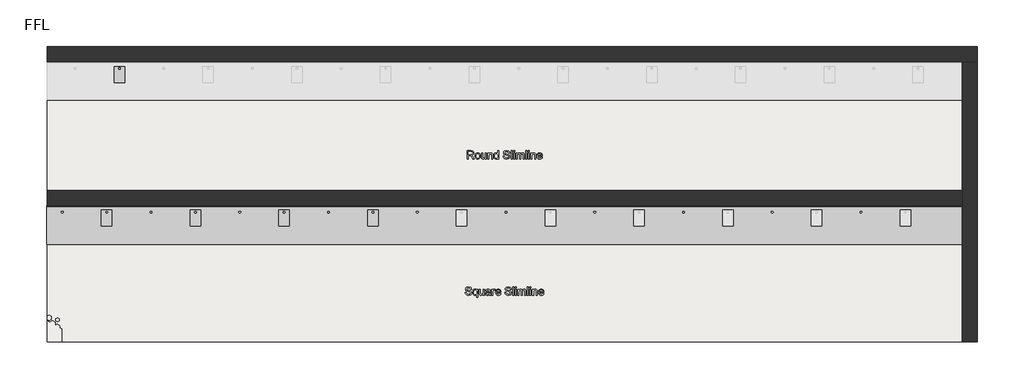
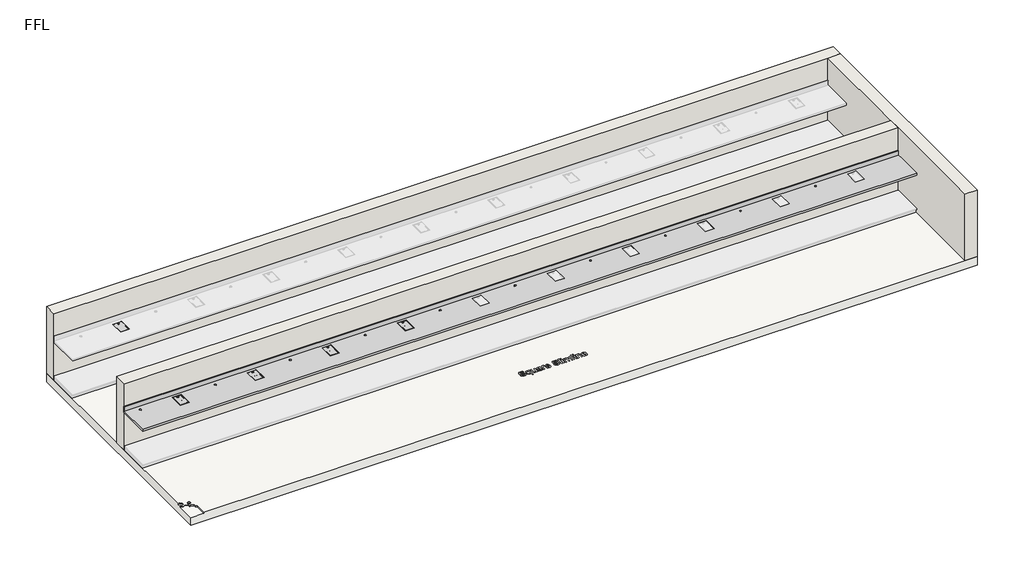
# One storey, part 1 of 3: 5 flow terminals, 3 walls, 1 furniture element, 1 slab.
"""IFC4 building model written with IfcOpenShell, lengths in millimetres."""

from ifc_helpers import new_model, si_unit, frame, origin, origin_with_axes, place, context, project, spatial, polyline, circle_curve, outline, extrude, faceted_brep, transform, mapped, element, save
from ifc_brep_helpers import plane_surface, revolved_surface, advanced_brep
from components import brushed_f93afeca

model = new_model("IFC4")

# Units and contexts
model_context = context("Model", 3, world=origin())
ifc_project = project(units=[si_unit("LENGTHUNIT", "METRE", prefix="MILLI")], contexts=[model_context])

# Site, building, storey
site = spatial("IfcSite", under=ifc_project)
building = spatial("IfcBuilding", under=site)
storey = spatial("IfcBuildingStorey", under=building, Name="FFL", Elevation=0.0)

# Flow terminals
placement = place(None, origin())
brushed_shape = brushed_f93afeca(model_context)
element("IfcFlowTerminal", 1, ObjectType="z_PlumFixt_Billi_Slimline Font : Brushed", at=placement, inside=storey, context=model_context, shape_type="MappedRepresentation", body=[
    mapped(brushed_shape, transform((-1260.7352929, 13626.6047841, 900.0), x_axis=(1.0, 0.0, 0.0), y_axis=(0.0, 1.0, 0.0), z_axis=(0.0, 0.0, 1.0))),
])
element("IfcFlowTerminal", 2, ObjectType="z_PlumFixt_Billi_Slimline Font : Brushed", at=placement, inside=storey, context=model_context, shape_type="MappedRepresentation", body=[
    mapped(brushed_shape, transform((-1490.7352929, 11033.3893304, 900.0), x_axis=(1.0, 0.0, 0.0), y_axis=(0.0, 1.0, 0.0), z_axis=(0.0, 0.0, 1.0))),
])
element("IfcFlowTerminal", 3, ObjectType="z_PlumFixt_Billi_Slimline Font : Chrome", at=placement, inside=storey, context=model_context, shape_type="MappedRepresentation", body=[
    mapped(brushed_shape, transform((109.2647071, 11033.3893304, 900.0), x_axis=(1.0, 0.0, 0.0), y_axis=(0.0, 1.0, 0.0), z_axis=(0.0, 0.0, 1.0))),
])
element("IfcFlowTerminal", 4, ObjectType="z_PlumFixt_Billi_Slimline Font : Matte Black", at=placement, inside=storey, context=model_context, shape_type="MappedRepresentation", body=[
    mapped(brushed_shape, transform((1709.2647071, 11033.3893304, 900.0), x_axis=(1.0, 0.0, 0.0), y_axis=(0.0, 1.0, 0.0), z_axis=(0.0, 0.0, 1.0))),
])
element("IfcFlowTerminal", 5, ObjectType="z_PlumFixt_Billi_Slimline Font : Matte White", at=placement, inside=storey, context=model_context, shape_type="MappedRepresentation", body=[
    mapped(brushed_shape, transform((3309.2647071, 11033.3893304, 900.0), x_axis=(1.0, 0.0, 0.0), y_axis=(0.0, 1.0, 0.0), z_axis=(0.0, 0.0, 1.0))),
])

# Furniture
element("IfcFurniture", 6, ObjectType="Counter Top : 700mm Depth", at=placement, inside=storey, context=model_context, shape_type="AdvancedBrep", body=[
    advanced_brep(
    [(-2573.0908899, 10548.2393304, 900.0), (13940.2647071, 10548.2393304, 900.0), (13940.2647071, 11229.1893304, 900.0), (-2573.0908899, 11229.1893304, 900.0), (-2289.7352929, 11144.2297911, 900.0), (-2289.7352929, 11112.2297911, 900.0), (-1394.2352929, 10874.1488696, 900.0), (-1585.2352929, 10874.1488696, 900.0), (-1585.2352929, 11165.1488696, 900.0), (-1394.2352929, 11165.1488696, 900.0), (-689.7352929, 11144.2297911, 900.0), (-689.7352929, 11112.2297911, 900.0), (205.7647071, 10874.1488696, 900.0), (14.7647071, 10874.1488696, 900.0), (14.7647071, 11165.1488696, 900.0), (205.7647071, 11165.1488696, 900.0), (910.2647071, 11144.2297911, 900.0), (910.2647071, 11112.2297911, 900.0), (1805.7647071, 10874.1488696, 900.0), (1614.7647071, 10874.1488696, 900.0), (1614.7647071, 11165.1488696, 900.0), (1805.7647071, 11165.1488696, 900.0), (2510.2647071, 11144.2297911, 900.0), (2510.2647071, 11112.2297911, 900.0), (3405.7647071, 10874.1488696, 900.0), (3214.7647071, 10874.1488696, 900.0), (3214.7647071, 11165.1488696, 900.0), (3405.7647071, 11165.1488696, 900.0), (4110.2647071, 11144.2297911, 900.0), (4110.2647071, 11112.2297911, 900.0), (5005.7647071, 10874.1488696, 900.0), (4814.7647071, 10874.1488696, 900.0), (4814.7647071, 11165.1488696, 900.0), (5005.7647071, 11165.1488696, 900.0), (5710.2647071, 11144.2297911, 900.0), (5710.2647071, 11112.2297911, 900.0), (6605.7647071, 10874.1488696, 900.0), (6414.7647071, 10874.1488696, 900.0), (6414.7647071, 11165.1488696, 900.0), (6605.7647071, 11165.1488696, 900.0), (7310.2647071, 11144.2297911, 900.0), (7310.2647071, 11112.2297911, 900.0), (8205.7647071, 10874.1488696, 900.0), (8014.7647071, 10874.1488696, 900.0), (8014.7647071, 11165.1488696, 900.0), (8205.7647071, 11165.1488696, 900.0), (8910.2647071, 11144.2297911, 900.0), (8910.2647071, 11112.2297911, 900.0), (9805.7647071, 10874.1488696, 900.0), (9614.7647071, 10874.1488696, 900.0), (9614.7647071, 11165.1488696, 900.0), (9805.7647071, 11165.1488696, 900.0), (10510.2647071, 11144.2297911, 900.0), (10510.2647071, 11112.2297911, 900.0), (11405.7647071, 10874.1488696, 900.0), (11214.7647071, 10874.1488696, 900.0), (11214.7647071, 11165.1488696, 900.0), (11405.7647071, 11165.1488696, 900.0), (12110.2647071, 11144.2297911, 900.0), (12110.2647071, 11112.2297911, 900.0), (13005.7647071, 10874.1488696, 900.0), (12814.7647071, 10874.1488696, 900.0), (12814.7647071, 11165.1488696, 900.0), (13005.7647071, 11165.1488696, 900.0), (13940.2647071, 11248.2393304, 860.0), (13940.2647071, 10548.2393304, 860.0), (-2573.0908899, 10548.2393304, 860.0), (-2573.0908899, 11248.2393304, 860.0), (-2289.7352929, 11112.2297911, 860.0), (-2289.7352929, 11144.2297911, 860.0), (-1576.7352929, 10882.6488696, 860.0), (-1402.7352929, 10882.6488696, 860.0), (-1402.7352929, 11156.6488696, 860.0), (-1576.7352929, 11156.6488696, 860.0), (-689.7352929, 11112.2297911, 860.0), (-689.7352929, 11144.2297911, 860.0), (23.2647071, 10882.6488696, 860.0), (197.2647071, 10882.6488696, 860.0), (197.2647071, 11156.6488696, 860.0), (23.2647071, 11156.6488696, 860.0), (910.2647071, 11112.2297911, 860.0), (910.2647071, 11144.2297911, 860.0), (1623.2647071, 10882.6488696, 860.0), (1797.2647071, 10882.6488696, 860.0), (1797.2647071, 11156.6488696, 860.0), (1623.2647071, 11156.6488696, 860.0), (2510.2647071, 11112.2297911, 860.0), (2510.2647071, 11144.2297911, 860.0), (3223.2647071, 10882.6488696, 860.0), (3397.2647071, 10882.6488696, 860.0), (3397.2647071, 11156.6488696, 860.0), (3223.2647071, 11156.6488696, 860.0), (4110.2647071, 11112.2297911, 860.0), (4110.2647071, 11144.2297911, 860.0), (4823.2647071, 10882.6488696, 860.0), (4997.2647071, 10882.6488696, 860.0), (4997.2647071, 11156.6488696, 860.0), (4823.2647071, 11156.6488696, 860.0), (5710.2647071, 11112.2297911, 860.0), (5710.2647071, 11144.2297911, 860.0), (6423.2647071, 10882.6488696, 860.0), (6597.2647071, 10882.6488696, 860.0), (6597.2647071, 11156.6488696, 860.0), (6423.2647071, 11156.6488696, 860.0), (7310.2647071, 11112.2297911, 860.0), (7310.2647071, 11144.2297911, 860.0), (8023.2647071, 10882.6488696, 860.0), (8197.2647071, 10882.6488696, 860.0), (8197.2647071, 11156.6488696, 860.0), (8023.2647071, 11156.6488696, 860.0), (8910.2647071, 11112.2297911, 860.0), (8910.2647071, 11144.2297911, 860.0), (9623.2647071, 10882.6488696, 860.0), (9797.2647071, 10882.6488696, 860.0), (9797.2647071, 11156.6488696, 860.0), (9623.2647071, 11156.6488696, 860.0), (10510.2647071, 11112.2297911, 860.0), (10510.2647071, 11144.2297911, 860.0), (11223.2647071, 10882.6488696, 860.0), (11397.2647071, 10882.6488696, 860.0), (11397.2647071, 11156.6488696, 860.0), (11223.2647071, 11156.6488696, 860.0), (12110.2647071, 11112.2297911, 860.0), (12110.2647071, 11144.2297911, 860.0), (12823.2647071, 10882.6488696, 860.0), (12997.2647071, 10882.6488696, 860.0), (12997.2647071, 11156.6488696, 860.0), (12823.2647071, 11156.6488696, 860.0), (-2573.0908899, 11248.2393304, 1001.6), (13940.2647071, 11248.2393304, 1001.6), (-2573.0908899, 11229.1893304, 1001.6), (13940.2647071, 11229.1893304, 1001.6), (-1576.7352929, 10882.6488696, 894.5), (-1402.7352929, 10882.6488696, 894.5), (-1394.2352929, 10874.1488696, 894.5), (-1585.2352929, 10874.1488696, 894.5), (-1402.7352929, 11156.6488696, 894.5), (-1394.2352929, 11165.1488696, 894.5), (-1576.7352929, 11156.6488696, 894.5), (-1585.2352929, 11165.1488696, 894.5), (23.2647071, 10882.6488696, 894.5), (197.2647071, 10882.6488696, 894.5), (205.7647071, 10874.1488696, 894.5), (14.7647071, 10874.1488696, 894.5), (197.2647071, 11156.6488696, 894.5), (205.7647071, 11165.1488696, 894.5), (23.2647071, 11156.6488696, 894.5), (14.7647071, 11165.1488696, 894.5), (1623.2647071, 10882.6488696, 894.5), (1797.2647071, 10882.6488696, 894.5), (1805.7647071, 10874.1488696, 894.5), (1614.7647071, 10874.1488696, 894.5), (1797.2647071, 11156.6488696, 894.5), (1805.7647071, 11165.1488696, 894.5), (1623.2647071, 11156.6488696, 894.5), (1614.7647071, 11165.1488696, 894.5), (3223.2647071, 10882.6488696, 894.5), (3397.2647071, 10882.6488696, 894.5), (3405.7647071, 10874.1488696, 894.5), (3214.7647071, 10874.1488696, 894.5), (3397.2647071, 11156.6488696, 894.5), (3405.7647071, 11165.1488696, 894.5), (3223.2647071, 11156.6488696, 894.5), (3214.7647071, 11165.1488696, 894.5), (4823.2647071, 10882.6488696, 894.5), (4997.2647071, 10882.6488696, 894.5), (5005.7647071, 10874.1488696, 894.5), (4814.7647071, 10874.1488696, 894.5), (4997.2647071, 11156.6488696, 894.5), (5005.7647071, 11165.1488696, 894.5), (4823.2647071, 11156.6488696, 894.5), (4814.7647071, 11165.1488696, 894.5), (6423.2647071, 10882.6488696, 894.5), (6597.2647071, 10882.6488696, 894.5), (6605.7647071, 10874.1488696, 894.5), (6414.7647071, 10874.1488696, 894.5), (6597.2647071, 11156.6488696, 894.5), (6605.7647071, 11165.1488696, 894.5), (6423.2647071, 11156.6488696, 894.5), (6414.7647071, 11165.1488696, 894.5), (8023.2647071, 10882.6488696, 894.5), (8197.2647071, 10882.6488696, 894.5), (8205.7647071, 10874.1488696, 894.5), (8014.7647071, 10874.1488696, 894.5), (8197.2647071, 11156.6488696, 894.5), (8205.7647071, 11165.1488696, 894.5), (8023.2647071, 11156.6488696, 894.5), (8014.7647071, 11165.1488696, 894.5), (9623.2647071, 10882.6488696, 894.5), (9797.2647071, 10882.6488696, 894.5), (9805.7647071, 10874.1488696, 894.5), (9614.7647071, 10874.1488696, 894.5), (9797.2647071, 11156.6488696, 894.5), (9805.7647071, 11165.1488696, 894.5), (9623.2647071, 11156.6488696, 894.5), (9614.7647071, 11165.1488696, 894.5), (11223.2647071, 10882.6488696, 894.5), (11397.2647071, 10882.6488696, 894.5), (11405.7647071, 10874.1488696, 894.5), (11214.7647071, 10874.1488696, 894.5), (11397.2647071, 11156.6488696, 894.5), (11405.7647071, 11165.1488696, 894.5), (11223.2647071, 11156.6488696, 894.5), (11214.7647071, 11165.1488696, 894.5), (12823.2647071, 10882.6488696, 894.5), (12997.2647071, 10882.6488696, 894.5), (13005.7647071, 10874.1488696, 894.5), (12814.7647071, 10874.1488696, 894.5), (12997.2647071, 11156.6488696, 894.5), (13005.7647071, 11165.1488696, 894.5), (12823.2647071, 11156.6488696, 894.5), (12814.7647071, 11165.1488696, 894.5)],
    [
        (0, 1),
        (1, 2),
        (2, 3),
        (3, 0),
        (4, 5, circle_curve(frame((-2289.7352929, 11128.2297911, 900.0), z_axis=(0.0, 0.0, -1.0), x_axis=(0.0, 1.0, 0.0)), 16.0)),
        (5, 4, circle_curve(frame((-2289.7352929, 11128.2297911, 900.0), z_axis=(0.0, 0.0, -1.0), x_axis=(0.0, 1.0, 0.0)), 16.0)),
        (6, 7),
        (7, 8),
        (8, 9),
        (9, 6),
        (10, 11, circle_curve(frame((-689.7352929, 11128.2297911, 900.0), z_axis=(0.0, 0.0, -1.0), x_axis=(0.0, 1.0, 0.0)), 16.0)),
        (11, 10, circle_curve(frame((-689.7352929, 11128.2297911, 900.0), z_axis=(0.0, 0.0, -1.0), x_axis=(0.0, 1.0, 0.0)), 16.0)),
        (12, 13),
        (13, 14),
        (14, 15),
        (15, 12),
        (16, 17, circle_curve(frame((910.2647071, 11128.2297911, 900.0), z_axis=(0.0, 0.0, -1.0), x_axis=(0.0, 1.0, 0.0)), 16.0)),
        (17, 16, circle_curve(frame((910.2647071, 11128.2297911, 900.0), z_axis=(0.0, 0.0, -1.0), x_axis=(0.0, 1.0, 0.0)), 16.0)),
        (18, 19),
        (19, 20),
        (20, 21),
        (21, 18),
        (22, 23, circle_curve(frame((2510.2647071, 11128.2297911, 900.0), z_axis=(0.0, 0.0, -1.0), x_axis=(0.0, 1.0, 0.0)), 16.0)),
        (23, 22, circle_curve(frame((2510.2647071, 11128.2297911, 900.0), z_axis=(0.0, 0.0, -1.0), x_axis=(0.0, 1.0, 0.0)), 16.0)),
        (24, 25),
        (25, 26),
        (26, 27),
        (27, 24),
        (28, 29, circle_curve(frame((4110.2647071, 11128.2297911, 900.0), z_axis=(0.0, 0.0, -1.0), x_axis=(0.0, 1.0, 0.0)), 16.0)),
        (29, 28, circle_curve(frame((4110.2647071, 11128.2297911, 900.0), z_axis=(0.0, 0.0, -1.0), x_axis=(0.0, 1.0, 0.0)), 16.0)),
        (30, 31),
        (31, 32),
        (32, 33),
        (33, 30),
        (34, 35, circle_curve(frame((5710.2647071, 11128.2297911, 900.0), z_axis=(0.0, 0.0, -1.0), x_axis=(0.0, 1.0, 0.0)), 16.0)),
        (35, 34, circle_curve(frame((5710.2647071, 11128.2297911, 900.0), z_axis=(0.0, 0.0, -1.0), x_axis=(0.0, 1.0, 0.0)), 16.0)),
        (36, 37),
        (37, 38),
        (38, 39),
        (39, 36),
        (40, 41, circle_curve(frame((7310.2647071, 11128.2297911, 900.0), z_axis=(0.0, 0.0, -1.0), x_axis=(0.0, 1.0, 0.0)), 16.0)),
        (41, 40, circle_curve(frame((7310.2647071, 11128.2297911, 900.0), z_axis=(0.0, 0.0, -1.0), x_axis=(0.0, 1.0, 0.0)), 16.0)),
        (42, 43),
        (43, 44),
        (44, 45),
        (45, 42),
        (46, 47, circle_curve(frame((8910.2647071, 11128.2297911, 900.0), z_axis=(0.0, 0.0, -1.0), x_axis=(0.0, 1.0, 0.0)), 16.0)),
        (47, 46, circle_curve(frame((8910.2647071, 11128.2297911, 900.0), z_axis=(0.0, 0.0, -1.0), x_axis=(0.0, 1.0, 0.0)), 16.0)),
        (48, 49),
        (49, 50),
        (50, 51),
        (51, 48),
        (52, 53, circle_curve(frame((10510.2647071, 11128.2297911, 900.0), z_axis=(0.0, 0.0, -1.0), x_axis=(0.0, 1.0, 0.0)), 16.0)),
        (53, 52, circle_curve(frame((10510.2647071, 11128.2297911, 900.0), z_axis=(0.0, 0.0, -1.0), x_axis=(0.0, 1.0, 0.0)), 16.0)),
        (54, 55),
        (55, 56),
        (56, 57),
        (57, 54),
        (58, 59, circle_curve(frame((12110.2647071, 11128.2297911, 900.0), z_axis=(0.0, 0.0, -1.0), x_axis=(0.0, 1.0, 0.0)), 16.0)),
        (59, 58, circle_curve(frame((12110.2647071, 11128.2297911, 900.0), z_axis=(0.0, 0.0, -1.0), x_axis=(0.0, 1.0, 0.0)), 16.0)),
        (60, 61),
        (61, 62),
        (62, 63),
        (63, 60),
        (64, 65),
        (65, 66),
        (66, 67),
        (67, 64),
        (68, 69, circle_curve(frame((-2289.7352929, 11128.2297911, 860.0), z_axis=(0.0, 0.0, 1.0), x_axis=(0.0, 1.0, 0.0)), 16.0)),
        (69, 68, circle_curve(frame((-2289.7352929, 11128.2297911, 860.0), z_axis=(0.0, 0.0, 1.0), x_axis=(0.0, 1.0, 0.0)), 16.0)),
        (70, 71),
        (71, 72),
        (72, 73),
        (73, 70),
        (74, 75, circle_curve(frame((-689.7352929, 11128.2297911, 860.0), z_axis=(0.0, 0.0, 1.0), x_axis=(0.0, 1.0, 0.0)), 16.0)),
        (75, 74, circle_curve(frame((-689.7352929, 11128.2297911, 860.0), z_axis=(0.0, 0.0, 1.0), x_axis=(0.0, 1.0, 0.0)), 16.0)),
        (76, 77),
        (77, 78),
        (78, 79),
        (79, 76),
        (80, 81, circle_curve(frame((910.2647071, 11128.2297911, 860.0), z_axis=(0.0, 0.0, 1.0), x_axis=(0.0, 1.0, 0.0)), 16.0)),
        (81, 80, circle_curve(frame((910.2647071, 11128.2297911, 860.0), z_axis=(0.0, 0.0, 1.0), x_axis=(0.0, 1.0, 0.0)), 16.0)),
        (82, 83),
        (83, 84),
        (84, 85),
        (85, 82),
        (86, 87, circle_curve(frame((2510.2647071, 11128.2297911, 860.0), z_axis=(0.0, 0.0, 1.0), x_axis=(0.0, 1.0, 0.0)), 16.0)),
        (87, 86, circle_curve(frame((2510.2647071, 11128.2297911, 860.0), z_axis=(0.0, 0.0, 1.0), x_axis=(0.0, 1.0, 0.0)), 16.0)),
        (88, 89),
        (89, 90),
        (90, 91),
        (91, 88),
        (92, 93, circle_curve(frame((4110.2647071, 11128.2297911, 860.0), z_axis=(0.0, 0.0, 1.0), x_axis=(0.0, 1.0, 0.0)), 16.0)),
        (93, 92, circle_curve(frame((4110.2647071, 11128.2297911, 860.0), z_axis=(0.0, 0.0, 1.0), x_axis=(0.0, 1.0, 0.0)), 16.0)),
        (94, 95),
        (95, 96),
        (96, 97),
        (97, 94),
        (98, 99, circle_curve(frame((5710.2647071, 11128.2297911, 860.0), z_axis=(0.0, 0.0, 1.0), x_axis=(0.0, 1.0, 0.0)), 16.0)),
        (99, 98, circle_curve(frame((5710.2647071, 11128.2297911, 860.0), z_axis=(0.0, 0.0, 1.0), x_axis=(0.0, 1.0, 0.0)), 16.0)),
        (100, 101),
        (101, 102),
        (102, 103),
        (103, 100),
        (104, 105, circle_curve(frame((7310.2647071, 11128.2297911, 860.0), z_axis=(0.0, 0.0, 1.0), x_axis=(0.0, 1.0, 0.0)), 16.0)),
        (105, 104, circle_curve(frame((7310.2647071, 11128.2297911, 860.0), z_axis=(0.0, 0.0, 1.0), x_axis=(0.0, 1.0, 0.0)), 16.0)),
        (106, 107),
        (107, 108),
        (108, 109),
        (109, 106),
        (110, 111, circle_curve(frame((8910.2647071, 11128.2297911, 860.0), z_axis=(0.0, 0.0, 1.0), x_axis=(0.0, 1.0, 0.0)), 16.0)),
        (111, 110, circle_curve(frame((8910.2647071, 11128.2297911, 860.0), z_axis=(0.0, 0.0, 1.0), x_axis=(0.0, 1.0, 0.0)), 16.0)),
        (112, 113),
        (113, 114),
        (114, 115),
        (115, 112),
        (116, 117, circle_curve(frame((10510.2647071, 11128.2297911, 860.0), z_axis=(0.0, 0.0, 1.0), x_axis=(0.0, 1.0, 0.0)), 16.0)),
        (117, 116, circle_curve(frame((10510.2647071, 11128.2297911, 860.0), z_axis=(0.0, 0.0, 1.0), x_axis=(0.0, 1.0, 0.0)), 16.0)),
        (118, 119),
        (119, 120),
        (120, 121),
        (121, 118),
        (122, 123, circle_curve(frame((12110.2647071, 11128.2297911, 860.0), z_axis=(0.0, 0.0, 1.0), x_axis=(0.0, 1.0, 0.0)), 16.0)),
        (123, 122, circle_curve(frame((12110.2647071, 11128.2297911, 860.0), z_axis=(0.0, 0.0, 1.0), x_axis=(0.0, 1.0, 0.0)), 16.0)),
        (124, 125),
        (125, 126),
        (126, 127),
        (127, 124),
        (67, 128),
        (128, 129),
        (129, 64),
        (3, 130),
        (130, 128),
        (66, 0),
        (65, 1),
        (129, 131),
        (131, 2),
        (130, 131),
        (68, 5),
        (4, 69),
        (132, 133),
        (133, 71),
        (70, 132),
        (6, 134),
        (134, 135),
        (135, 7),
        (133, 136),
        (136, 72),
        (9, 137),
        (137, 134),
        (136, 138),
        (138, 73),
        (8, 139),
        (139, 137),
        (138, 132),
        (139, 135),
        (74, 11),
        (10, 75),
        (140, 141),
        (141, 77),
        (76, 140),
        (12, 142),
        (142, 143),
        (143, 13),
        (141, 144),
        (144, 78),
        (15, 145),
        (145, 142),
        (144, 146),
        (146, 79),
        (14, 147),
        (147, 145),
        (146, 140),
        (147, 143),
        (80, 17),
        (16, 81),
        (148, 149),
        (149, 83),
        (82, 148),
        (18, 150),
        (150, 151),
        (151, 19),
        (149, 152),
        (152, 84),
        (21, 153),
        (153, 150),
        (152, 154),
        (154, 85),
        (20, 155),
        (155, 153),
        (154, 148),
        (155, 151),
        (86, 23),
        (22, 87),
        (156, 157),
        (157, 89),
        (88, 156),
        (24, 158),
        (158, 159),
        (159, 25),
        (157, 160),
        (160, 90),
        (27, 161),
        (161, 158),
        (160, 162),
        (162, 91),
        (26, 163),
        (163, 161),
        (162, 156),
        (163, 159),
        (92, 29),
        (28, 93),
        (164, 165),
        (165, 95),
        (94, 164),
        (30, 166),
        (166, 167),
        (167, 31),
        (165, 168),
        (168, 96),
        (33, 169),
        (169, 166),
        (168, 170),
        (170, 97),
        (32, 171),
        (171, 169),
        (170, 164),
        (171, 167),
        (98, 35),
        (34, 99),
        (172, 173),
        (173, 101),
        (100, 172),
        (36, 174),
        (174, 175),
        (175, 37),
        (173, 176),
        (176, 102),
        (39, 177),
        (177, 174),
        (176, 178),
        (178, 103),
        (38, 179),
        (179, 177),
        (178, 172),
        (179, 175),
        (104, 41),
        (40, 105),
        (180, 181),
        (181, 107),
        (106, 180),
        (42, 182),
        (182, 183),
        (183, 43),
        (181, 184),
        (184, 108),
        (45, 185),
        (185, 182),
        (184, 186),
        (186, 109),
        (44, 187),
        (187, 185),
        (186, 180),
        (187, 183),
        (110, 47),
        (46, 111),
        (188, 189),
        (189, 113),
        (112, 188),
        (48, 190),
        (190, 191),
        (191, 49),
        (189, 192),
        (192, 114),
        (51, 193),
        (193, 190),
        (192, 194),
        (194, 115),
        (50, 195),
        (195, 193),
        (194, 188),
        (195, 191),
        (116, 53),
        (52, 117),
        (196, 197),
        (197, 119),
        (118, 196),
        (54, 198),
        (198, 199),
        (199, 55),
        (197, 200),
        (200, 120),
        (57, 201),
        (201, 198),
        (200, 202),
        (202, 121),
        (56, 203),
        (203, 201),
        (202, 196),
        (203, 199),
        (122, 59),
        (58, 123),
        (204, 205),
        (205, 125),
        (124, 204),
        (60, 206),
        (206, 207),
        (207, 61),
        (205, 208),
        (208, 126),
        (63, 209),
        (209, 206),
        (208, 210),
        (210, 127),
        (62, 211),
        (211, 209),
        (210, 204),
        (211, 207),
    ],
    [
        plane_surface(frame((-2573.0908899, 11248.2393304, 900.0), z_axis=(0.0, 0.0, 1.0), x_axis=(-1.0, 0.0, 0.0))),
        plane_surface(frame((-2573.0908899, 11248.2393304, 860.0), z_axis=(0.0, 0.0, -1.0), x_axis=(1.0, 0.0, 0.0))),
        plane_surface(frame((13940.2647071, 11248.2393304, 900.0), z_axis=(0.0, 1.0, 0.0), x_axis=(0.0, 0.0, -1.0))),
        plane_surface(frame((-2573.0908899, 11248.2393304, 900.0), z_axis=(-1.0, 0.0, 0.0), x_axis=(0.0, 0.0, -1.0))),
        plane_surface(frame((-2573.0908899, 10548.2393304, 900.0), z_axis=(0.0, -1.0, 0.0), x_axis=(0.0, 0.0, -1.0))),
        plane_surface(frame((13940.2647071, 10548.2393304, 900.0), z_axis=(1.0, 0.0, 0.0), x_axis=(0.0, 0.0, -1.0))),
        plane_surface(frame((-2573.0908899, 11248.2393304, 1001.6), z_axis=(0.0, 0.0, 1.0), x_axis=(0.0, -1.0, 0.0))),
        plane_surface(frame((-2573.0908899, 11229.1893304, 1001.6), z_axis=(0.0, -1.0, 0.0), x_axis=(0.0, 0.0, -1.0))),
        revolved_surface(polyline([(-2289.7352929, 11144.2297911, 900.0), (-2289.7352929, 11144.2297911, 860.0)]), (-2289.7352929, 11128.2297911, 800.0), (0.0, 0.0, 1.0)),
        plane_surface(frame((-1576.7352929, 10882.6488696, 800.0), z_axis=(0.0, 1.0, 0.0), x_axis=(1.0, 0.0, 0.0))),
        plane_surface(frame((-1585.2352929, 10874.1488696, 894.5), z_axis=(0.0, 1.0, 0.0), x_axis=(1.0, 0.0, 0.0))),
        plane_surface(frame((-1402.7352929, 10882.6488696, 800.0), z_axis=(-1.0, 0.0, 0.0), x_axis=(0.0, 1.0, 0.0))),
        plane_surface(frame((-1394.2352929, 10874.1488696, 894.5), z_axis=(-1.0, 0.0, 0.0), x_axis=(0.0, 1.0, 0.0))),
        plane_surface(frame((-1402.7352929, 11156.6488696, 800.0), z_axis=(0.0, -1.0, 0.0), x_axis=(-1.0, 0.0, 0.0))),
        plane_surface(frame((-1394.2352929, 11165.1488696, 894.5), z_axis=(0.0, -1.0, 0.0), x_axis=(-1.0, 0.0, 0.0))),
        plane_surface(frame((-1576.7352929, 11156.6488696, 800.0), z_axis=(1.0, 0.0, 0.0), x_axis=(0.0, -1.0, 0.0))),
        plane_surface(frame((-1576.7352929, 11156.6488696, 894.5), z_axis=(0.0, 0.0, 1.0), x_axis=(0.0, -1.0, 0.0))),
        plane_surface(frame((-1585.2352929, 11165.1488696, 894.5), z_axis=(1.0, 0.0, 0.0), x_axis=(0.0, -1.0, 0.0))),
        revolved_surface(polyline([(-689.7352929, 11144.2297911, 900.0), (-689.7352929, 11144.2297911, 860.0)]), (-689.7352929, 11128.2297911, 800.0), (0.0, 0.0, 1.0)),
        plane_surface(frame((23.2647071, 10882.6488696, 800.0), z_axis=(0.0, 1.0, 0.0), x_axis=(1.0, 0.0, 0.0))),
        plane_surface(frame((14.7647071, 10874.1488696, 894.5), z_axis=(0.0, 1.0, 0.0), x_axis=(1.0, 0.0, 0.0))),
        plane_surface(frame((197.2647071, 10882.6488696, 800.0), z_axis=(-1.0, 0.0, 0.0), x_axis=(0.0, 1.0, 0.0))),
        plane_surface(frame((205.7647071, 10874.1488696, 894.5), z_axis=(-1.0, 0.0, 0.0), x_axis=(0.0, 1.0, 0.0))),
        plane_surface(frame((197.2647071, 11156.6488696, 800.0), z_axis=(0.0, -1.0, 0.0), x_axis=(-1.0, 0.0, 0.0))),
        plane_surface(frame((205.7647071, 11165.1488696, 894.5), z_axis=(0.0, -1.0, 0.0), x_axis=(-1.0, 0.0, 0.0))),
        plane_surface(frame((23.2647071, 11156.6488696, 800.0), z_axis=(1.0, 0.0, 0.0), x_axis=(0.0, -1.0, 0.0))),
        plane_surface(frame((23.2647071, 11156.6488696, 894.5), z_axis=(0.0, 0.0, 1.0), x_axis=(0.0, -1.0, 0.0))),
        plane_surface(frame((14.7647071, 11165.1488696, 894.5), z_axis=(1.0, 0.0, 0.0), x_axis=(0.0, -1.0, 0.0))),
        revolved_surface(polyline([(910.2647071, 11144.2297911, 900.0), (910.2647071, 11144.2297911, 860.0)]), (910.2647071, 11128.2297911, 800.0), (0.0, 0.0, 1.0)),
        plane_surface(frame((1623.2647071, 10882.6488696, 800.0), z_axis=(0.0, 1.0, 0.0), x_axis=(1.0, 0.0, 0.0))),
        plane_surface(frame((1614.7647071, 10874.1488696, 894.5), z_axis=(0.0, 1.0, 0.0), x_axis=(1.0, 0.0, 0.0))),
        plane_surface(frame((1797.2647071, 10882.6488696, 800.0), z_axis=(-1.0, 0.0, 0.0), x_axis=(0.0, 1.0, 0.0))),
        plane_surface(frame((1805.7647071, 10874.1488696, 894.5), z_axis=(-1.0, 0.0, 0.0), x_axis=(0.0, 1.0, 0.0))),
        plane_surface(frame((1797.2647071, 11156.6488696, 800.0), z_axis=(0.0, -1.0, 0.0), x_axis=(-1.0, 0.0, 0.0))),
        plane_surface(frame((1805.7647071, 11165.1488696, 894.5), z_axis=(0.0, -1.0, 0.0), x_axis=(-1.0, 0.0, 0.0))),
        plane_surface(frame((1623.2647071, 11156.6488696, 800.0), z_axis=(1.0, 0.0, 0.0), x_axis=(0.0, -1.0, 0.0))),
        plane_surface(frame((1623.2647071, 11156.6488696, 894.5), z_axis=(0.0, 0.0, 1.0), x_axis=(0.0, -1.0, 0.0))),
        plane_surface(frame((1614.7647071, 11165.1488696, 894.5), z_axis=(1.0, 0.0, 0.0), x_axis=(0.0, -1.0, 0.0))),
        revolved_surface(polyline([(2510.2647071, 11144.2297911, 900.0), (2510.2647071, 11144.2297911, 860.0)]), (2510.2647071, 11128.2297911, 800.0), (0.0, 0.0, 1.0)),
        plane_surface(frame((3223.2647071, 10882.6488696, 800.0), z_axis=(0.0, 1.0, 0.0), x_axis=(1.0, 0.0, 0.0))),
        plane_surface(frame((3214.7647071, 10874.1488696, 894.5), z_axis=(0.0, 1.0, 0.0), x_axis=(1.0, 0.0, 0.0))),
        plane_surface(frame((3397.2647071, 10882.6488696, 800.0), z_axis=(-1.0, 0.0, 0.0), x_axis=(0.0, 1.0, 0.0))),
        plane_surface(frame((3405.7647071, 10874.1488696, 894.5), z_axis=(-1.0, 0.0, 0.0), x_axis=(0.0, 1.0, 0.0))),
        plane_surface(frame((3397.2647071, 11156.6488696, 800.0), z_axis=(0.0, -1.0, 0.0), x_axis=(-1.0, 0.0, 0.0))),
        plane_surface(frame((3405.7647071, 11165.1488696, 894.5), z_axis=(0.0, -1.0, 0.0), x_axis=(-1.0, 0.0, 0.0))),
        plane_surface(frame((3223.2647071, 11156.6488696, 800.0), z_axis=(1.0, 0.0, 0.0), x_axis=(0.0, -1.0, 0.0))),
        plane_surface(frame((3223.2647071, 11156.6488696, 894.5), z_axis=(0.0, 0.0, 1.0), x_axis=(0.0, -1.0, 0.0))),
        plane_surface(frame((3214.7647071, 11165.1488696, 894.5), z_axis=(1.0, 0.0, 0.0), x_axis=(0.0, -1.0, 0.0))),
        revolved_surface(polyline([(4110.2647071, 11144.2297911, 900.0), (4110.2647071, 11144.2297911, 860.0)]), (4110.2647071, 11128.2297911, 800.0), (0.0, 0.0, 1.0)),
        plane_surface(frame((4823.2647071, 10882.6488696, 800.0), z_axis=(0.0, 1.0, 0.0), x_axis=(1.0, 0.0, 0.0))),
        plane_surface(frame((4814.7647071, 10874.1488696, 894.5), z_axis=(0.0, 1.0, 0.0), x_axis=(1.0, 0.0, 0.0))),
        plane_surface(frame((4997.2647071, 10882.6488696, 800.0), z_axis=(-1.0, 0.0, 0.0), x_axis=(0.0, 1.0, 0.0))),
        plane_surface(frame((5005.7647071, 10874.1488696, 894.5), z_axis=(-1.0, 0.0, 0.0), x_axis=(0.0, 1.0, 0.0))),
        plane_surface(frame((4997.2647071, 11156.6488696, 800.0), z_axis=(0.0, -1.0, 0.0), x_axis=(-1.0, 0.0, 0.0))),
        plane_surface(frame((5005.7647071, 11165.1488696, 894.5), z_axis=(0.0, -1.0, 0.0), x_axis=(-1.0, 0.0, 0.0))),
        plane_surface(frame((4823.2647071, 11156.6488696, 800.0), z_axis=(1.0, 0.0, 0.0), x_axis=(0.0, -1.0, 0.0))),
        plane_surface(frame((4823.2647071, 11156.6488696, 894.5), z_axis=(0.0, 0.0, 1.0), x_axis=(0.0, -1.0, 0.0))),
        plane_surface(frame((4814.7647071, 11165.1488696, 894.5), z_axis=(1.0, 0.0, 0.0), x_axis=(0.0, -1.0, 0.0))),
        revolved_surface(polyline([(5710.2647071, 11144.2297911, 900.0), (5710.2647071, 11144.2297911, 860.0)]), (5710.2647071, 11128.2297911, 800.0), (0.0, 0.0, 1.0)),
        plane_surface(frame((6423.2647071, 10882.6488696, 800.0), z_axis=(0.0, 1.0, 0.0), x_axis=(1.0, 0.0, 0.0))),
        plane_surface(frame((6414.7647071, 10874.1488696, 894.5), z_axis=(0.0, 1.0, 0.0), x_axis=(1.0, 0.0, 0.0))),
        plane_surface(frame((6597.2647071, 10882.6488696, 800.0), z_axis=(-1.0, 0.0, 0.0), x_axis=(0.0, 1.0, 0.0))),
        plane_surface(frame((6605.7647071, 10874.1488696, 894.5), z_axis=(-1.0, 0.0, 0.0), x_axis=(0.0, 1.0, 0.0))),
        plane_surface(frame((6597.2647071, 11156.6488696, 800.0), z_axis=(0.0, -1.0, 0.0), x_axis=(-1.0, 0.0, 0.0))),
        plane_surface(frame((6605.7647071, 11165.1488696, 894.5), z_axis=(0.0, -1.0, 0.0), x_axis=(-1.0, 0.0, 0.0))),
        plane_surface(frame((6423.2647071, 11156.6488696, 800.0), z_axis=(1.0, 0.0, 0.0), x_axis=(0.0, -1.0, 0.0))),
        plane_surface(frame((6423.2647071, 11156.6488696, 894.5), z_axis=(0.0, 0.0, 1.0), x_axis=(0.0, -1.0, 0.0))),
        plane_surface(frame((6414.7647071, 11165.1488696, 894.5), z_axis=(1.0, 0.0, 0.0), x_axis=(0.0, -1.0, 0.0))),
        revolved_surface(polyline([(7310.2647071, 11144.2297911, 900.0), (7310.2647071, 11144.2297911, 860.0)]), (7310.2647071, 11128.2297911, 800.0), (0.0, 0.0, 1.0)),
        plane_surface(frame((8023.2647071, 10882.6488696, 800.0), z_axis=(0.0, 1.0, 0.0), x_axis=(1.0, 0.0, 0.0))),
        plane_surface(frame((8014.7647071, 10874.1488696, 894.5), z_axis=(0.0, 1.0, 0.0), x_axis=(1.0, 0.0, 0.0))),
        plane_surface(frame((8197.2647071, 10882.6488696, 800.0), z_axis=(-1.0, 0.0, 0.0), x_axis=(0.0, 1.0, 0.0))),
        plane_surface(frame((8205.7647071, 10874.1488696, 894.5), z_axis=(-1.0, 0.0, 0.0), x_axis=(0.0, 1.0, 0.0))),
        plane_surface(frame((8197.2647071, 11156.6488696, 800.0), z_axis=(0.0, -1.0, 0.0), x_axis=(-1.0, 0.0, 0.0))),
        plane_surface(frame((8205.7647071, 11165.1488696, 894.5), z_axis=(0.0, -1.0, 0.0), x_axis=(-1.0, 0.0, 0.0))),
        plane_surface(frame((8023.2647071, 11156.6488696, 800.0), z_axis=(1.0, 0.0, 0.0), x_axis=(0.0, -1.0, 0.0))),
        plane_surface(frame((8023.2647071, 11156.6488696, 894.5), z_axis=(0.0, 0.0, 1.0), x_axis=(0.0, -1.0, 0.0))),
        plane_surface(frame((8014.7647071, 11165.1488696, 894.5), z_axis=(1.0, 0.0, 0.0), x_axis=(0.0, -1.0, 0.0))),
        revolved_surface(polyline([(8910.2647071, 11144.2297911, 900.0), (8910.2647071, 11144.2297911, 860.0)]), (8910.2647071, 11128.2297911, 800.0), (0.0, 0.0, 1.0)),
        plane_surface(frame((9623.2647071, 10882.6488696, 800.0), z_axis=(0.0, 1.0, 0.0), x_axis=(1.0, 0.0, 0.0))),
        plane_surface(frame((9614.7647071, 10874.1488696, 894.5), z_axis=(0.0, 1.0, 0.0), x_axis=(1.0, 0.0, 0.0))),
        plane_surface(frame((9797.2647071, 10882.6488696, 800.0), z_axis=(-1.0, 0.0, 0.0), x_axis=(0.0, 1.0, 0.0))),
        plane_surface(frame((9805.7647071, 10874.1488696, 894.5), z_axis=(-1.0, 0.0, 0.0), x_axis=(0.0, 1.0, 0.0))),
        plane_surface(frame((9797.2647071, 11156.6488696, 800.0), z_axis=(0.0, -1.0, 0.0), x_axis=(-1.0, 0.0, 0.0))),
        plane_surface(frame((9805.7647071, 11165.1488696, 894.5), z_axis=(0.0, -1.0, 0.0), x_axis=(-1.0, 0.0, 0.0))),
        plane_surface(frame((9623.2647071, 11156.6488696, 800.0), z_axis=(1.0, 0.0, 0.0), x_axis=(0.0, -1.0, 0.0))),
        plane_surface(frame((9623.2647071, 11156.6488696, 894.5), z_axis=(0.0, 0.0, 1.0), x_axis=(0.0, -1.0, 0.0))),
        plane_surface(frame((9614.7647071, 11165.1488696, 894.5), z_axis=(1.0, 0.0, 0.0), x_axis=(0.0, -1.0, 0.0))),
        revolved_surface(polyline([(10510.2647071, 11144.2297911, 900.0), (10510.2647071, 11144.2297911, 860.0)]), (10510.2647071, 11128.2297911, 800.0), (0.0, 0.0, 1.0)),
        plane_surface(frame((11223.2647071, 10882.6488696, 800.0), z_axis=(0.0, 1.0, 0.0), x_axis=(1.0, 0.0, 0.0))),
        plane_surface(frame((11214.7647071, 10874.1488696, 894.5), z_axis=(0.0, 1.0, 0.0), x_axis=(1.0, 0.0, 0.0))),
        plane_surface(frame((11397.2647071, 10882.6488696, 800.0), z_axis=(-1.0, 0.0, 0.0), x_axis=(0.0, 1.0, 0.0))),
        plane_surface(frame((11405.7647071, 10874.1488696, 894.5), z_axis=(-1.0, 0.0, 0.0), x_axis=(0.0, 1.0, 0.0))),
        plane_surface(frame((11397.2647071, 11156.6488696, 800.0), z_axis=(0.0, -1.0, 0.0), x_axis=(-1.0, 0.0, 0.0))),
        plane_surface(frame((11405.7647071, 11165.1488696, 894.5), z_axis=(0.0, -1.0, 0.0), x_axis=(-1.0, 0.0, 0.0))),
        plane_surface(frame((11223.2647071, 11156.6488696, 800.0), z_axis=(1.0, 0.0, 0.0), x_axis=(0.0, -1.0, 0.0))),
        plane_surface(frame((11223.2647071, 11156.6488696, 894.5), z_axis=(0.0, 0.0, 1.0), x_axis=(0.0, -1.0, 0.0))),
        plane_surface(frame((11214.7647071, 11165.1488696, 894.5), z_axis=(1.0, 0.0, 0.0), x_axis=(0.0, -1.0, 0.0))),
        revolved_surface(polyline([(12110.2647071, 11144.2297911, 900.0), (12110.2647071, 11144.2297911, 860.0)]), (12110.2647071, 11128.2297911, 800.0), (0.0, 0.0, 1.0)),
        plane_surface(frame((12823.2647071, 10882.6488696, 800.0), z_axis=(0.0, 1.0, 0.0), x_axis=(1.0, 0.0, 0.0))),
        plane_surface(frame((12814.7647071, 10874.1488696, 894.5), z_axis=(0.0, 1.0, 0.0), x_axis=(1.0, 0.0, 0.0))),
        plane_surface(frame((12997.2647071, 10882.6488696, 800.0), z_axis=(-1.0, 0.0, 0.0), x_axis=(0.0, 1.0, 0.0))),
        plane_surface(frame((13005.7647071, 10874.1488696, 894.5), z_axis=(-1.0, 0.0, 0.0), x_axis=(0.0, 1.0, 0.0))),
        plane_surface(frame((12997.2647071, 11156.6488696, 800.0), z_axis=(0.0, -1.0, 0.0), x_axis=(-1.0, 0.0, 0.0))),
        plane_surface(frame((13005.7647071, 11165.1488696, 894.5), z_axis=(0.0, -1.0, 0.0), x_axis=(-1.0, 0.0, 0.0))),
        plane_surface(frame((12823.2647071, 11156.6488696, 800.0), z_axis=(1.0, 0.0, 0.0), x_axis=(0.0, -1.0, 0.0))),
        plane_surface(frame((12823.2647071, 11156.6488696, 894.5), z_axis=(0.0, 0.0, 1.0), x_axis=(0.0, -1.0, 0.0))),
        plane_surface(frame((12814.7647071, 11165.1488696, 894.5), z_axis=(1.0, 0.0, 0.0), x_axis=(0.0, -1.0, 0.0))),
    ],
    [
        (0, [[1, 2, 3, 4], [5, 6], [7, 8, 9, 10], [11, 12], [13, 14, 15, 16], [17, 18], [19, 20, 21, 22], [23, 24], [25, 26, 27, 28], [29, 30], [31, 32, 33, 34], [35, 36], [37, 38, 39, 40], [41, 42], [43, 44, 45, 46], [47, 48], [49, 50, 51, 52], [53, 54], [55, 56, 57, 58], [59, 60], [61, 62, 63, 64]]),
        (1, [[65, 66, 67, 68], [69, 70], [71, 72, 73, 74], [75, 76], [77, 78, 79, 80], [81, 82], [83, 84, 85, 86], [87, 88], [89, 90, 91, 92], [93, 94], [95, 96, 97, 98], [99, 100], [101, 102, 103, 104], [105, 106], [107, 108, 109, 110], [111, 112], [113, 114, 115, 116], [117, 118], [119, 120, 121, 122], [123, 124], [125, 126, 127, 128]]),
        (2, [[-68, 129, 130, 131]]),
        (3, [[-4, 132, 133, -129, -67, 134]]),
        (4, [[-1, -134, -66, 135]]),
        (5, [[-2, -135, -65, -131, 136, 137]]),
        (6, [[-130, -133, 138, -136]]),
        (7, [[-3, -137, -138, -132]]),
        (8, [[139, -5, 140, -69]]),
        (8, [[-139, -70, -140, -6]]),
        (9, [[141, 142, -71, 143]]),
        (10, [[144, 145, 146, -7]]),
        (11, [[147, 148, -72, -142]]),
        (12, [[-144, -10, 149, 150]]),
        (13, [[151, 152, -73, -148]]),
        (14, [[-149, -9, 153, 154]]),
        (15, [[155, -143, -74, -152]]),
        (16, [[-145, -150, -154, 156], [-141, -155, -151, -147]]),
        (17, [[-146, -156, -153, -8]]),
        (18, [[157, -11, 158, -75]]),
        (18, [[-157, -76, -158, -12]]),
        (19, [[159, 160, -77, 161]]),
        (20, [[162, 163, 164, -13]]),
        (21, [[165, 166, -78, -160]]),
        (22, [[-162, -16, 167, 168]]),
        (23, [[169, 170, -79, -166]]),
        (24, [[-167, -15, 171, 172]]),
        (25, [[173, -161, -80, -170]]),
        (26, [[-163, -168, -172, 174], [-159, -173, -169, -165]]),
        (27, [[-164, -174, -171, -14]]),
        (28, [[175, -17, 176, -81]]),
        (28, [[-175, -82, -176, -18]]),
        (29, [[177, 178, -83, 179]]),
        (30, [[180, 181, 182, -19]]),
        (31, [[183, 184, -84, -178]]),
        (32, [[-180, -22, 185, 186]]),
        (33, [[187, 188, -85, -184]]),
        (34, [[-185, -21, 189, 190]]),
        (35, [[191, -179, -86, -188]]),
        (36, [[-181, -186, -190, 192], [-177, -191, -187, -183]]),
        (37, [[-182, -192, -189, -20]]),
        (38, [[193, -23, 194, -87]]),
        (38, [[-193, -88, -194, -24]]),
        (39, [[195, 196, -89, 197]]),
        (40, [[198, 199, 200, -25]]),
        (41, [[201, 202, -90, -196]]),
        (42, [[-198, -28, 203, 204]]),
        (43, [[205, 206, -91, -202]]),
        (44, [[-203, -27, 207, 208]]),
        (45, [[209, -197, -92, -206]]),
        (46, [[-199, -204, -208, 210], [-195, -209, -205, -201]]),
        (47, [[-200, -210, -207, -26]]),
        (48, [[211, -29, 212, -93]]),
        (48, [[-211, -94, -212, -30]]),
        (49, [[213, 214, -95, 215]]),
        (50, [[216, 217, 218, -31]]),
        (51, [[219, 220, -96, -214]]),
        (52, [[-216, -34, 221, 222]]),
        (53, [[223, 224, -97, -220]]),
        (54, [[-221, -33, 225, 226]]),
        (55, [[227, -215, -98, -224]]),
        (56, [[-217, -222, -226, 228], [-213, -227, -223, -219]]),
        (57, [[-218, -228, -225, -32]]),
        (58, [[229, -35, 230, -99]]),
        (58, [[-229, -100, -230, -36]]),
        (59, [[231, 232, -101, 233]]),
        (60, [[234, 235, 236, -37]]),
        (61, [[237, 238, -102, -232]]),
        (62, [[-234, -40, 239, 240]]),
        (63, [[241, 242, -103, -238]]),
        (64, [[-239, -39, 243, 244]]),
        (65, [[245, -233, -104, -242]]),
        (66, [[-235, -240, -244, 246], [-231, -245, -241, -237]]),
        (67, [[-236, -246, -243, -38]]),
        (68, [[247, -41, 248, -105]]),
        (68, [[-247, -106, -248, -42]]),
        (69, [[249, 250, -107, 251]]),
        (70, [[252, 253, 254, -43]]),
        (71, [[255, 256, -108, -250]]),
        (72, [[-252, -46, 257, 258]]),
        (73, [[259, 260, -109, -256]]),
        (74, [[-257, -45, 261, 262]]),
        (75, [[263, -251, -110, -260]]),
        (76, [[-253, -258, -262, 264], [-249, -263, -259, -255]]),
        (77, [[-254, -264, -261, -44]]),
        (78, [[265, -47, 266, -111]]),
        (78, [[-265, -112, -266, -48]]),
        (79, [[267, 268, -113, 269]]),
        (80, [[270, 271, 272, -49]]),
        (81, [[273, 274, -114, -268]]),
        (82, [[-270, -52, 275, 276]]),
        (83, [[277, 278, -115, -274]]),
        (84, [[-275, -51, 279, 280]]),
        (85, [[281, -269, -116, -278]]),
        (86, [[-271, -276, -280, 282], [-267, -281, -277, -273]]),
        (87, [[-272, -282, -279, -50]]),
        (88, [[283, -53, 284, -117]]),
        (88, [[-283, -118, -284, -54]]),
        (89, [[285, 286, -119, 287]]),
        (90, [[288, 289, 290, -55]]),
        (91, [[291, 292, -120, -286]]),
        (92, [[-288, -58, 293, 294]]),
        (93, [[295, 296, -121, -292]]),
        (94, [[-293, -57, 297, 298]]),
        (95, [[299, -287, -122, -296]]),
        (96, [[-289, -294, -298, 300], [-285, -299, -295, -291]]),
        (97, [[-290, -300, -297, -56]]),
        (98, [[301, -59, 302, -123]]),
        (98, [[-301, -124, -302, -60]]),
        (99, [[303, 304, -125, 305]]),
        (100, [[306, 307, 308, -61]]),
        (101, [[309, 310, -126, -304]]),
        (102, [[-306, -64, 311, 312]]),
        (103, [[313, 314, -127, -310]]),
        (104, [[-311, -63, 315, 316]]),
        (105, [[317, -305, -128, -314]]),
        (106, [[-307, -312, -316, 318], [-303, -317, -313, -309]]),
        (107, [[-308, -318, -315, -62]]),
    ],
),
])

# Slab
element("IfcSlab", 7, ObjectType="Generic 200mm", at=placement, inside=storey, context=model_context, shape_type="Brep", body=[
    faceted_brep([(14210.2647071, 14118.2393304, -200.0), (14210.2647071, 8783.2393304, -200.0), (-2559.7352929, 8783.2393304, -200.0), (-2559.7352929, 14118.2393304, -200.0), (14210.2647071, 8783.2393304, 0.0), (14210.2647071, 14118.2393304, 0.0), (-2559.7352929, 14118.2393304, 0.0), (-2559.7352929, 9253.2584174, 0.0), (-2522.7223575, 9274.6278457, 0.0), (-2476.3702024, 9247.8664165, 0.0), (-2476.3702024, 9192.6947831, 0.0), (-2522.7223575, 9165.933354, 0.0), (-2559.7352929, 9187.3027822, 0.0), (-2559.7352929, 9174.2845408, 0.0), (-2512.7403751, 9147.1520124, 0.0), (-2466.7358496, 9173.7127376, 0.0), (-2407.5048451, 9139.5157012, 0.0), (-2407.5048451, 9092.8774715, 0.0), (-2378.2362051, 9109.7757287, 0.0), (-2323.5871808, 9078.2240998, 0.0), (-2323.5871808, 9039.1132559, 0.0), (-2288.9461647, 9019.1132559, 0.0), (-2288.9461647, 8783.2393304, 0.0), (-2372.6159207, 9216.7417473, 0.0), (-2341.8110434, 9198.9565431, 0.0), (-2341.8110434, 9166.3487482, 0.0), (-2372.6159207, 9148.563544, 0.0), (-2403.420798, 9166.3487482, 0.0), (-2403.420798, 9198.9565431, 0.0), (-2288.9461647, 8783.2393304, -25.0), (-2559.7352929, 8783.2393304, -25.0), (-2559.7352929, 9174.295444, -25.0), (-2559.7352929, 9187.3027822, -25.0), (-2559.7352929, 9253.2584174, -25.0), (-2288.9461647, 9019.1132559, -25.0), (-2323.5871808, 9039.1132559, -25.0), (-2323.5871808, 9078.2240998, -25.0), (-2378.2362051, 9109.7757287, -25.0), (-2407.5048451, 9092.8774715, -25.0), (-2407.5048451, 9139.5157012, -25.0), (-2466.7358496, 9173.7127376, -25.0), (-2512.7403751, 9147.1520124, -25.0), (-2476.3702024, 9247.8664165, -25.0), (-2522.7223575, 9274.6278457, -25.0), (-2522.7223575, 9165.933354, -25.0), (-2476.3702024, 9192.6947831, -25.0), (-2341.8110434, 9198.9565431, -25.0), (-2372.6159207, 9216.7417473, -25.0), (-2403.420798, 9198.9565431, -25.0), (-2403.420798, 9166.3487482, -25.0), (-2372.6159207, 9148.563544, -25.0), (-2341.8110434, 9166.3487482, -25.0)], [[[0, 1, 2, 3]], [[4, 5, 6, 7, 8, 9, 10, 11, 12, 13, 14, 15, 16, 17, 18, 19, 20, 21, 22], [23, 24, 25, 26, 27, 28]], [[1, 0, 5, 4]], [[2, 1, 4, 22, 29, 30]], [[3, 2, 30, 31, 13, 12, 32, 33, 7, 6]], [[0, 3, 6, 5]], [[34, 35, 36, 37, 38, 39, 40, 41, 31, 30, 29]], [[42, 43, 33, 32, 44, 45]], [[46, 47, 48, 49, 50, 51]], [[34, 29, 22, 21]], [[35, 34, 21, 20]], [[36, 35, 20, 19]], [[37, 36, 19, 18]], [[38, 37, 18, 17]], [[39, 38, 17, 16]], [[40, 39, 16, 15]], [[41, 40, 15, 14]], [[31, 41, 14, 13]], [[43, 42, 9, 8]], [[33, 43, 8, 7]], [[44, 32, 12, 11]], [[45, 44, 11, 10]], [[42, 45, 10, 9]], [[47, 46, 24, 23]], [[48, 47, 23, 28]], [[49, 48, 28, 27]], [[50, 49, 27, 26]], [[51, 50, 26, 25]], [[46, 51, 25, 24]]]),
])

# Walls
element("IfcWall", 8, ObjectType="Double brick - 270", at=placement, inside=storey, context=model_context, shape_type="SweptSolid", body=[
    extrude(outline(polyline([(13940.2647071, 11248.2393304), (-2559.7352929, 11248.2393304), (-2559.7352929, 11518.2393304), (13940.2647071, 11518.2393304), (13940.2647071, 11248.2393304)])), origin_with_axes(), (0.0, 0.0, 1.0), 1500.0),
])
element("IfcWall", 9, ObjectType="Double brick - 270", at=placement, inside=storey, context=model_context, shape_type="Brep", body=[
    faceted_brep([(-2559.7352929, 13848.2393304, 0.0), (13940.2647071, 13848.2393304, 0.0), (14210.2647071, 13848.2393304, 0.0), (14210.2647071, 13848.2393304, 1500.0), (13940.2647071, 13848.2393304, 1500.0), (-2559.7352929, 13848.2393304, 1500.0), (-2559.7352929, 14118.2393304, 0.0), (-2559.7352929, 14118.2393304, 1500.0), (14210.2647071, 14118.2393304, 1500.0), (14210.2647071, 14118.2393304, 0.0)], [[[0, 1, 2, 3, 4, 5]], [[6, 7, 8, 9]], [[2, 1, 0, 6, 9]], [[5, 4, 3, 8, 7]], [[0, 5, 7, 6]], [[3, 2, 9, 8]]]),
])
element("IfcWall", 10, ObjectType="Double brick - 270", at=placement, inside=storey, context=model_context, shape_type="Brep", body=[
    faceted_brep([(14210.2647071, 8783.2393304, 0.0), (14210.2647071, 13848.2393304, 0.0), (14210.2647071, 13848.2393304, 1500.0), (14210.2647071, 8783.2393304, 1500.0), (13940.2647071, 8783.2393304, 0.0), (13940.2647071, 8783.2393304, 1500.0), (13940.2647071, 11248.2393304, 1500.0), (13940.2647071, 11518.2393304, 1500.0), (13940.2647071, 13848.2393304, 1500.0), (13940.2647071, 13848.2393304, 0.0), (13940.2647071, 11518.2393304, 0.0), (13940.2647071, 11248.2393304, 0.0)], [[[0, 1, 2, 3]], [[4, 5, 6, 7, 8, 9, 10, 11]], [[1, 0, 4, 11, 10, 9]], [[3, 2, 8, 7, 6, 5]], [[0, 3, 5, 4]], [[2, 1, 9, 8]]]),
])

save(model, "model.ifc")
